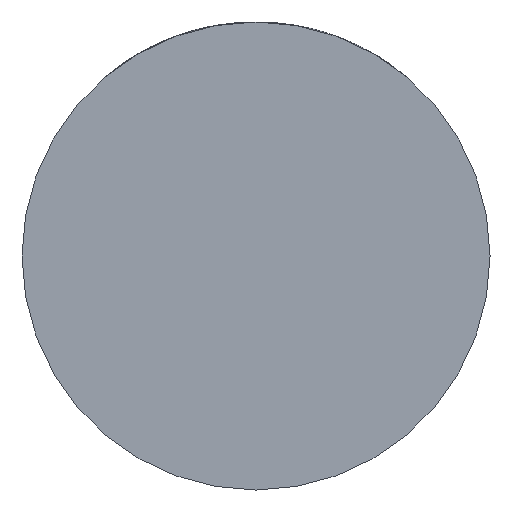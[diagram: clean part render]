
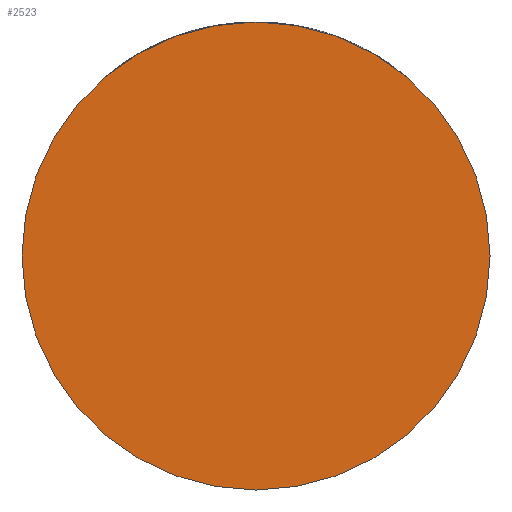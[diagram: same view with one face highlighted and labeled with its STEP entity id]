
A CAD part, front view. The second image highlights one B-rep face of the part: STEP entity #2523.
In plain terms, the highlighted planar face has unit normal (0, -1, 0).
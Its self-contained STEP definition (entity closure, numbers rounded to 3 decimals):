
#29 = DIRECTION ( 'NONE',  ( 1., 0., 0. ) ) ;
#323 = FACE_OUTER_BOUND ( 'NONE', #441, .T. ) ;
#436 = DIRECTION ( 'NONE',  ( 0., -1., 0. ) ) ;
#441 = EDGE_LOOP ( 'NONE', ( #1984, #2558 ) ) ;
#670 = CIRCLE ( 'NONE', #3623, 39. ) ;
#723 = EDGE_CURVE ( 'NONE', #1326, #2615, #670, .T. ) ;
#1326 = VERTEX_POINT ( 'NONE', #4208 ) ;
#1984 = ORIENTED_EDGE ( 'NONE', *, *, #2054, .T. ) ;
#2037 = PLANE ( 'NONE',  #3533 ) ;
#2054 = EDGE_CURVE ( 'NONE', #2615, #1326, #2850, .T. ) ;
#2523 = ADVANCED_FACE ( 'NONE', ( #323 ), #2037, .T. ) ;
#2558 = ORIENTED_EDGE ( 'NONE', *, *, #723, .T. ) ;
#2615 = VERTEX_POINT ( 'NONE', #2685 ) ;
#2685 = CARTESIAN_POINT ( 'NONE',  ( -39., -36., 0. ) ) ;
#2706 = CARTESIAN_POINT ( 'NONE',  ( 0., -36., 0. ) ) ;
#2726 = CARTESIAN_POINT ( 'NONE',  ( 0., -36., 0. ) ) ;
#2850 = CIRCLE ( 'NONE', #4247, 39. ) ;
#3107 = DIRECTION ( 'NONE',  ( 1., 0., 0. ) ) ;
#3533 = AXIS2_PLACEMENT_3D ( 'NONE', #2706, #3772, #4471 ) ;
#3586 = CARTESIAN_POINT ( 'NONE',  ( 0., -36., 0. ) ) ;
#3623 = AXIS2_PLACEMENT_3D ( 'NONE', #2726, #4179, #29 ) ;
#3772 = DIRECTION ( 'NONE',  ( 0., -1., 0. ) ) ;
#4179 = DIRECTION ( 'NONE',  ( 0., -1., 0. ) ) ;
#4208 = CARTESIAN_POINT ( 'NONE',  ( 39., -36., 0. ) ) ;
#4247 = AXIS2_PLACEMENT_3D ( 'NONE', #3586, #436, #3107 ) ;
#4471 = DIRECTION ( 'NONE',  ( 1., 0., 0. ) ) ;
